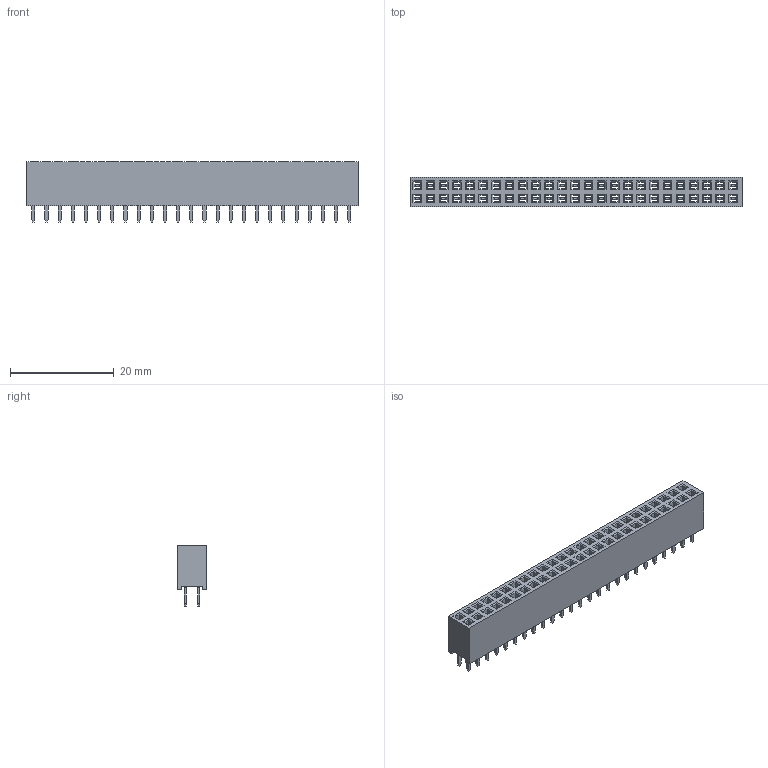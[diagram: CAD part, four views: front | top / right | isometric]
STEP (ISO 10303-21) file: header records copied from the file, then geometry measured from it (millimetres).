
FILE_DESCRIPTION(('FreeCAD Model'),'2;1');
FILE_NAME('C:\Users\Vista_64_D630\Desktop\Jared\code\Hardware\trunk\rusefi.com\rusefi_lib\Con_2x25.step','2018-03-10T05:47:27',( 'kicad StepUp'),('ksu MCAD'),'Open CASCADE STEP processor 6.8', 'FreeCAD','Unknown');
FILE_SCHEMA(('AUTOMOTIVE_DESIGN_CC2 { 1 2 10303 214 -1 1 5 4 }'));
Length unit declared in the file: millimetre
Products named in the file (2): ASSEMBLY; Con_2x25
Assembly tree (1 placements, depth 2):
  ASSEMBLY
    Con_2x25
Bounding box: 64.07 x 5.68 x 11.6 mm (x, y, z)
Volume: 2338.2 mm3; surface area: 4465.8 mm2
Topology: 1 solids, 1 shells, 1210 faces, 3424 edges, 2216 vertices
Faces by surface type: plane 960, cylinder 250
Entity records: 39027 total; most frequent: CARTESIAN_POINT 6852, ORIENTED_EDGE 6848, DIRECTION 6348, EDGE_CURVE 3424, LINE 2924, VECTOR 2924, VERTEX_POINT 2216, AXIS2_PLACEMENT_3D 1712
